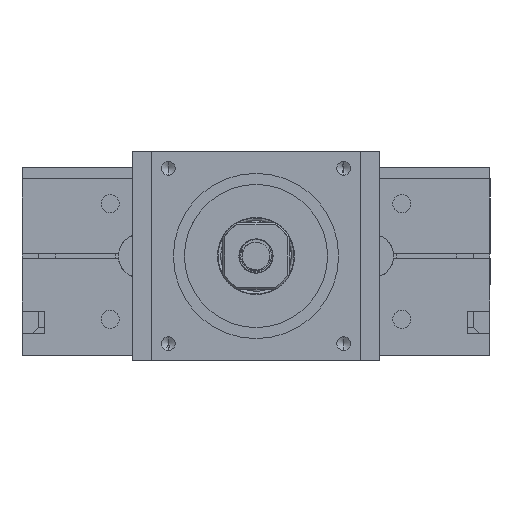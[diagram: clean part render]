
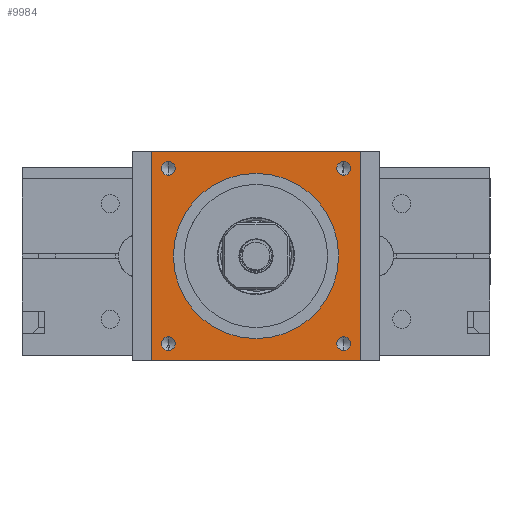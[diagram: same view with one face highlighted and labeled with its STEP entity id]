
A CAD part, left-side view. The second image highlights one B-rep face of the part: STEP entity #9984.
In plain terms, the highlighted planar face has unit normal (-1, 0, 0) as drawn and (0, -1, 0) by its records, which use the part's own axes.
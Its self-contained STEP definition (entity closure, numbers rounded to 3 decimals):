
#156 = EDGE_LOOP ( 'NONE', ( #1015, #5681 ) ) ;
#172 = CARTESIAN_POINT ( 'NONE',  ( 15.91, 0., 17.16 ) ) ;
#259 = CARTESIAN_POINT ( 'NONE',  ( 19., 0., 19. ) ) ;
#548 = VERTEX_POINT ( 'NONE', #47539 ) ;
#1015 = ORIENTED_EDGE ( 'NONE', *, *, #17050, .F. ) ;
#1042 = DIRECTION ( 'NONE',  ( 0., -1., 0. ) ) ;
#1127 = ORIENTED_EDGE ( 'NONE', *, *, #45537, .F. ) ;
#2275 = AXIS2_PLACEMENT_3D ( 'NONE', #42048, #18217, #61764 ) ;
#2618 = LINE ( 'NONE', #62589, #33554 ) ;
#3721 = DIRECTION ( 'NONE',  ( 0., -1., 0. ) ) ;
#3986 = FACE_BOUND ( 'NONE', #52667, .T. ) ;
#4242 = VERTEX_POINT ( 'NONE', #26696 ) ;
#4295 = FACE_BOUND ( 'NONE', #29853, .T. ) ;
#4420 = LINE ( 'NONE', #14723, #22367 ) ;
#4951 = VERTEX_POINT ( 'NONE', #26080 ) ;
#5370 = CIRCLE ( 'NONE', #36251, 1.25 ) ;
#5374 = EDGE_CURVE ( 'NONE', #63334, #4242, #24218, .T. ) ;
#5400 = EDGE_CURVE ( 'NONE', #548, #43127, #40516, .T. ) ;
#5669 = EDGE_CURVE ( 'NONE', #47403, #60677, #59511, .T. ) ;
#5681 = ORIENTED_EDGE ( 'NONE', *, *, #48633, .F. ) ;
#6848 = AXIS2_PLACEMENT_3D ( 'NONE', #50407, #45561, #21114 ) ;
#7642 = CIRCLE ( 'NONE', #60175, 15. ) ;
#7953 = VECTOR ( 'NONE', #53347, 1000. ) ;
#8058 = CIRCLE ( 'NONE', #16319, 1.25 ) ;
#8518 = ORIENTED_EDGE ( 'NONE', *, *, #38563, .F. ) ;
#9578 = ORIENTED_EDGE ( 'NONE', *, *, #5669, .T. ) ;
#9984 = ADVANCED_FACE ( 'NONE', ( #17868, #3986, #42636, #37811, #4295, #52307 ), #38135, .F. ) ;
#11074 = VERTEX_POINT ( 'NONE', #12243 ) ;
#11856 = CARTESIAN_POINT ( 'NONE',  ( -15.91, 0., -15.91 ) ) ;
#11961 = VERTEX_POINT ( 'NONE', #47216 ) ;
#12243 = CARTESIAN_POINT ( 'NONE',  ( 15.91, 0., -14.66 ) ) ;
#13397 = EDGE_CURVE ( 'NONE', #43127, #548, #25112, .T. ) ;
#13700 = EDGE_CURVE ( 'NONE', #59599, #4951, #7642, .T. ) ;
#14643 = CIRCLE ( 'NONE', #2275, 1.25 ) ;
#14723 = CARTESIAN_POINT ( 'NONE',  ( -22.5, 0., -19. ) ) ;
#15772 = CARTESIAN_POINT ( 'NONE',  ( -19., 0., -19. ) ) ;
#16319 = AXIS2_PLACEMENT_3D ( 'NONE', #56449, #41925, #61645 ) ;
#17050 = EDGE_CURVE ( 'NONE', #27507, #50691, #55267, .T. ) ;
#17213 = CARTESIAN_POINT ( 'NONE',  ( 19., 0., -19. ) ) ;
#17868 = FACE_BOUND ( 'NONE', #36957, .T. ) ;
#17976 = DIRECTION ( 'NONE',  ( 0., 0., -1. ) ) ;
#18217 = DIRECTION ( 'NONE',  ( 0., -1., 0. ) ) ;
#18398 = DIRECTION ( 'NONE',  ( 0., 0., -1. ) ) ;
#19249 = DIRECTION ( 'NONE',  ( -1., 0., 0. ) ) ;
#19388 = EDGE_CURVE ( 'NONE', #11074, #20795, #8058, .T. ) ;
#19611 = EDGE_LOOP ( 'NONE', ( #61297, #50500, #9578, #8518 ) ) ;
#19989 = CIRCLE ( 'NONE', #23057, 1.25 ) ;
#20226 = DIRECTION ( 'NONE',  ( 0., -1., 0. ) ) ;
#20504 = CARTESIAN_POINT ( 'NONE',  ( 19., 0., 19. ) ) ;
#20711 = CARTESIAN_POINT ( 'NONE',  ( 15.91, 0., 15.91 ) ) ;
#20795 = VERTEX_POINT ( 'NONE', #54881 ) ;
#21114 = DIRECTION ( 'NONE',  ( 0., 0., -1. ) ) ;
#21417 = EDGE_CURVE ( 'NONE', #20795, #11074, #14643, .T. ) ;
#21429 = CARTESIAN_POINT ( 'NONE',  ( 15.91, 0., 15.91 ) ) ;
#22367 = VECTOR ( 'NONE', #19249, 1000. ) ;
#22385 = AXIS2_PLACEMENT_3D ( 'NONE', #20711, #1042, #40320 ) ;
#22443 = ORIENTED_EDGE ( 'NONE', *, *, #5374, .F. ) ;
#22926 = ORIENTED_EDGE ( 'NONE', *, *, #19388, .F. ) ;
#23057 = AXIS2_PLACEMENT_3D ( 'NONE', #21429, #31392, #41015 ) ;
#23940 = DIRECTION ( 'NONE',  ( 0., 1., 0. ) ) ;
#24218 = CIRCLE ( 'NONE', #60292, 1.25 ) ;
#25112 = CIRCLE ( 'NONE', #51911, 1.25 ) ;
#25300 = DIRECTION ( 'NONE',  ( 0., 0., 1. ) ) ;
#26080 = CARTESIAN_POINT ( 'NONE',  ( 0., 0., -15. ) ) ;
#26159 = EDGE_CURVE ( 'NONE', #11961, #57477, #2618, .T. ) ;
#26696 = CARTESIAN_POINT ( 'NONE',  ( -15.91, 0., 17.16 ) ) ;
#26978 = DIRECTION ( 'NONE',  ( 0., 0., -1. ) ) ;
#27418 = EDGE_CURVE ( 'NONE', #4951, #59599, #36721, .T. ) ;
#27507 = VERTEX_POINT ( 'NONE', #63278 ) ;
#29853 = EDGE_LOOP ( 'NONE', ( #50452, #52792 ) ) ;
#31262 = CARTESIAN_POINT ( 'NONE',  ( -15.91, 0., 14.66 ) ) ;
#31392 = DIRECTION ( 'NONE',  ( 0., -1., 0. ) ) ;
#32675 = DIRECTION ( 'NONE',  ( 0., 0., 1. ) ) ;
#33482 = AXIS2_PLACEMENT_3D ( 'NONE', #11856, #46939, #52417 ) ;
#33554 = VECTOR ( 'NONE', #18398, 1000. ) ;
#34408 = DIRECTION ( 'NONE',  ( 0., 0., -1. ) ) ;
#34657 = CARTESIAN_POINT ( 'NONE',  ( -22.5, 0., 19. ) ) ;
#34747 = EDGE_LOOP ( 'NONE', ( #22443, #1127 ) ) ;
#35053 = CARTESIAN_POINT ( 'NONE',  ( 0., 0., 15. ) ) ;
#36239 = ORIENTED_EDGE ( 'NONE', *, *, #5400, .F. ) ;
#36251 = AXIS2_PLACEMENT_3D ( 'NONE', #63454, #20226, #34408 ) ;
#36721 = CIRCLE ( 'NONE', #6848, 15. ) ;
#36957 = EDGE_LOOP ( 'NONE', ( #47462, #36239 ) ) ;
#37811 = FACE_BOUND ( 'NONE', #34747, .T. ) ;
#37925 = DIRECTION ( 'NONE',  ( 0., -1., 0. ) ) ;
#38135 = PLANE ( 'NONE',  #42146 ) ;
#38563 = EDGE_CURVE ( 'NONE', #11961, #60677, #39460, .T. ) ;
#39460 = LINE ( 'NONE', #34657, #7953 ) ;
#40320 = DIRECTION ( 'NONE',  ( 0., 0., -1. ) ) ;
#40516 = CIRCLE ( 'NONE', #33482, 1.25 ) ;
#41015 = DIRECTION ( 'NONE',  ( 0., 0., -1. ) ) ;
#41361 = EDGE_CURVE ( 'NONE', #47403, #57477, #4420, .T. ) ;
#41925 = DIRECTION ( 'NONE',  ( 0., -1., 0. ) ) ;
#42048 = CARTESIAN_POINT ( 'NONE',  ( 15.91, 0., -15.91 ) ) ;
#42146 = AXIS2_PLACEMENT_3D ( 'NONE', #48405, #23940, #32675 ) ;
#42636 = FACE_BOUND ( 'NONE', #156, .T. ) ;
#43127 = VERTEX_POINT ( 'NONE', #62813 ) ;
#43632 = CARTESIAN_POINT ( 'NONE',  ( -15.91, 0., -15.91 ) ) ;
#45537 = EDGE_CURVE ( 'NONE', #4242, #63334, #5370, .T. ) ;
#45561 = DIRECTION ( 'NONE',  ( 0., -1., 0. ) ) ;
#46939 = DIRECTION ( 'NONE',  ( 0., -1., 0. ) ) ;
#47216 = CARTESIAN_POINT ( 'NONE',  ( -19., 0., 19. ) ) ;
#47403 = VERTEX_POINT ( 'NONE', #17213 ) ;
#47462 = ORIENTED_EDGE ( 'NONE', *, *, #13397, .F. ) ;
#47539 = CARTESIAN_POINT ( 'NONE',  ( -15.91, 0., -14.66 ) ) ;
#47600 = CARTESIAN_POINT ( 'NONE',  ( 0., 0., 0. ) ) ;
#48405 = CARTESIAN_POINT ( 'NONE',  ( 0., 0., 0. ) ) ;
#48633 = EDGE_CURVE ( 'NONE', #50691, #27507, #19989, .T. ) ;
#50407 = CARTESIAN_POINT ( 'NONE',  ( 0., 0., 0. ) ) ;
#50452 = ORIENTED_EDGE ( 'NONE', *, *, #27418, .F. ) ;
#50500 = ORIENTED_EDGE ( 'NONE', *, *, #41361, .F. ) ;
#50691 = VERTEX_POINT ( 'NONE', #172 ) ;
#51492 = DIRECTION ( 'NONE',  ( 0., -1., 0. ) ) ;
#51911 = AXIS2_PLACEMENT_3D ( 'NONE', #43632, #3721, #53322 ) ;
#52307 = FACE_OUTER_BOUND ( 'NONE', #19611, .T. ) ;
#52417 = DIRECTION ( 'NONE',  ( 0., 0., -1. ) ) ;
#52667 = EDGE_LOOP ( 'NONE', ( #56182, #22926 ) ) ;
#52792 = ORIENTED_EDGE ( 'NONE', *, *, #13700, .F. ) ;
#53322 = DIRECTION ( 'NONE',  ( 0., 0., -1. ) ) ;
#53347 = DIRECTION ( 'NONE',  ( 1., 0., 0. ) ) ;
#53934 = VECTOR ( 'NONE', #25300, 1000. ) ;
#54881 = CARTESIAN_POINT ( 'NONE',  ( 15.91, 0., -17.16 ) ) ;
#55267 = CIRCLE ( 'NONE', #22385, 1.25 ) ;
#56182 = ORIENTED_EDGE ( 'NONE', *, *, #21417, .F. ) ;
#56309 = CARTESIAN_POINT ( 'NONE',  ( -15.91, 0., 15.91 ) ) ;
#56449 = CARTESIAN_POINT ( 'NONE',  ( 15.91, 0., -15.91 ) ) ;
#57477 = VERTEX_POINT ( 'NONE', #15772 ) ;
#59511 = LINE ( 'NONE', #20504, #53934 ) ;
#59599 = VERTEX_POINT ( 'NONE', #35053 ) ;
#60175 = AXIS2_PLACEMENT_3D ( 'NONE', #47600, #51492, #26978 ) ;
#60292 = AXIS2_PLACEMENT_3D ( 'NONE', #56309, #37925, #17976 ) ;
#60677 = VERTEX_POINT ( 'NONE', #259 ) ;
#61297 = ORIENTED_EDGE ( 'NONE', *, *, #26159, .T. ) ;
#61645 = DIRECTION ( 'NONE',  ( 0., 0., -1. ) ) ;
#61764 = DIRECTION ( 'NONE',  ( 0., 0., -1. ) ) ;
#62589 = CARTESIAN_POINT ( 'NONE',  ( -19., 0., 19. ) ) ;
#62813 = CARTESIAN_POINT ( 'NONE',  ( -15.91, 0., -17.16 ) ) ;
#63278 = CARTESIAN_POINT ( 'NONE',  ( 15.91, 0., 14.66 ) ) ;
#63334 = VERTEX_POINT ( 'NONE', #31262 ) ;
#63454 = CARTESIAN_POINT ( 'NONE',  ( -15.91, 0., 15.91 ) ) ;
